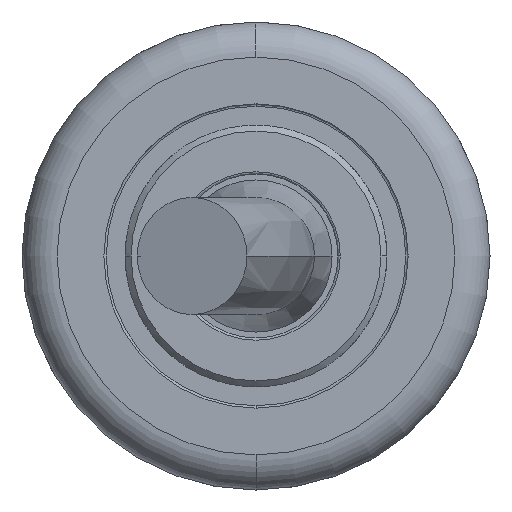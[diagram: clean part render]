
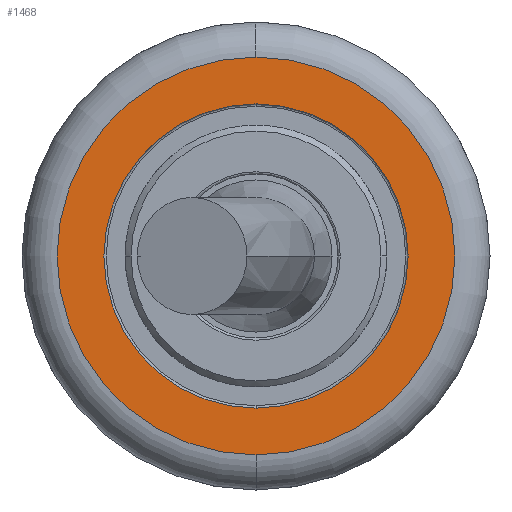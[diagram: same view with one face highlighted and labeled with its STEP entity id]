
A CAD part, left-side view. The second image highlights one B-rep face of the part: STEP entity #1468.
In plain terms, the highlighted planar face has unit normal (-1, 0, 0).
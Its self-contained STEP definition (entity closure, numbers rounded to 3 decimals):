
#190 = CARTESIAN_POINT ( 'NONE',  ( -64.98, 0., 0. ) ) ;
#443 = EDGE_CURVE ( 'NONE', #3403, #5141, #4764, .T. ) ;
#457 = EDGE_CURVE ( 'NONE', #2582, #2728, #945, .T. ) ;
#800 = EDGE_CURVE ( 'NONE', #5141, #3403, #3628, .T. ) ;
#838 = DIRECTION ( 'NONE',  ( -1., 0., 0. ) ) ;
#945 = CIRCLE ( 'NONE', #6285, 13. ) ;
#1091 = DIRECTION ( 'NONE',  ( -1., 0., 0. ) ) ;
#1132 = AXIS2_PLACEMENT_3D ( 'NONE', #190, #5808, #5745 ) ;
#1338 = AXIS2_PLACEMENT_3D ( 'NONE', #11649, #2492, #5293 ) ;
#1357 = ORIENTED_EDGE ( 'NONE', *, *, #443, .T. ) ;
#1468 = ADVANCED_FACE ( 'NONE', ( #8091, #5114 ), #11477, .F. ) ;
#2492 = DIRECTION ( 'NONE',  ( 1., 0., 0. ) ) ;
#2499 = EDGE_CURVE ( 'NONE', #2728, #2582, #8985, .T. ) ;
#2582 = VERTEX_POINT ( 'NONE', #4999 ) ;
#2728 = VERTEX_POINT ( 'NONE', #9042 ) ;
#3045 = EDGE_LOOP ( 'NONE', ( #10750, #11333 ) ) ;
#3403 = VERTEX_POINT ( 'NONE', #4065 ) ;
#3628 = CIRCLE ( 'NONE', #8947, 17. ) ;
#4065 = CARTESIAN_POINT ( 'NONE',  ( -64.98, 0., 17. ) ) ;
#4655 = DIRECTION ( 'NONE',  ( 0., 0., -1. ) ) ;
#4738 = DIRECTION ( 'NONE',  ( 0., 0., 1. ) ) ;
#4764 = CIRCLE ( 'NONE', #1132, 17. ) ;
#4999 = CARTESIAN_POINT ( 'NONE',  ( -64.98, 0., 13. ) ) ;
#5114 = FACE_OUTER_BOUND ( 'NONE', #7550, .T. ) ;
#5116 = ORIENTED_EDGE ( 'NONE', *, *, #800, .T. ) ;
#5141 = VERTEX_POINT ( 'NONE', #5284 ) ;
#5284 = CARTESIAN_POINT ( 'NONE',  ( -64.98, 0., -17. ) ) ;
#5293 = DIRECTION ( 'NONE',  ( 0., 0., -1. ) ) ;
#5684 = CARTESIAN_POINT ( 'NONE',  ( -64.98, 0., 0. ) ) ;
#5745 = DIRECTION ( 'NONE',  ( 0., 0., -1. ) ) ;
#5808 = DIRECTION ( 'NONE',  ( -1., 0., 0. ) ) ;
#5942 = AXIS2_PLACEMENT_3D ( 'NONE', #8259, #1091, #4738 ) ;
#6285 = AXIS2_PLACEMENT_3D ( 'NONE', #5684, #7591, #9376 ) ;
#7231 = CARTESIAN_POINT ( 'NONE',  ( -64.98, 0., 0. ) ) ;
#7550 = EDGE_LOOP ( 'NONE', ( #5116, #1357 ) ) ;
#7591 = DIRECTION ( 'NONE',  ( -1., 0., 0. ) ) ;
#8091 = FACE_BOUND ( 'NONE', #3045, .T. ) ;
#8259 = CARTESIAN_POINT ( 'NONE',  ( -64.98, 0., 0. ) ) ;
#8947 = AXIS2_PLACEMENT_3D ( 'NONE', #7231, #838, #4655 ) ;
#8985 = CIRCLE ( 'NONE', #5942, 13. ) ;
#9042 = CARTESIAN_POINT ( 'NONE',  ( -64.98, 0., -13. ) ) ;
#9376 = DIRECTION ( 'NONE',  ( 0., 0., 1. ) ) ;
#10750 = ORIENTED_EDGE ( 'NONE', *, *, #457, .F. ) ;
#11333 = ORIENTED_EDGE ( 'NONE', *, *, #2499, .F. ) ;
#11477 = PLANE ( 'NONE',  #1338 ) ;
#11649 = CARTESIAN_POINT ( 'NONE',  ( -64.98, 0., 0. ) ) ;
